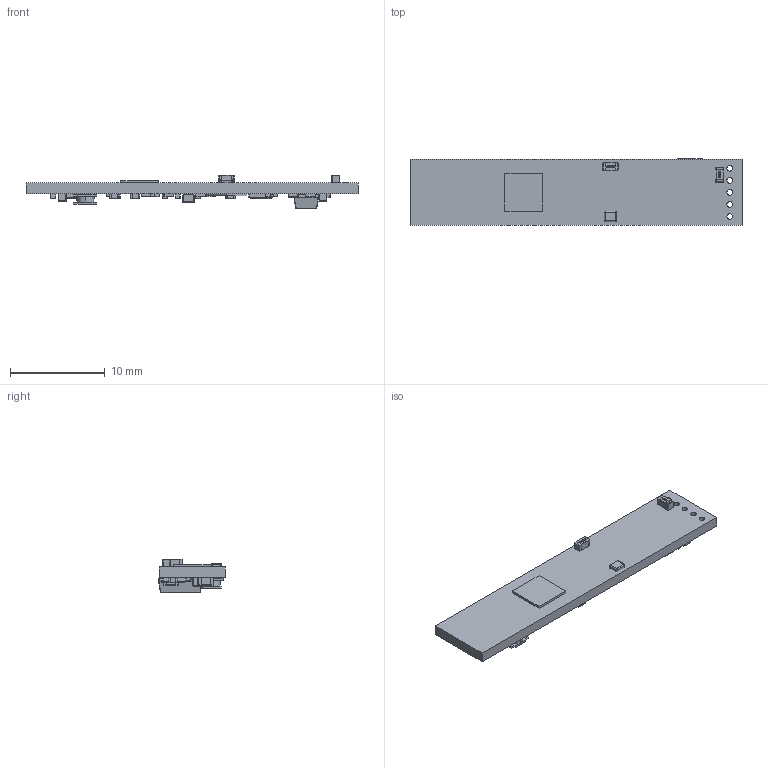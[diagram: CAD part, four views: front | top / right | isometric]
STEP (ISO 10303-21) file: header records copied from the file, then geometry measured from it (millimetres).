
FILE_DESCRIPTION(('Open CASCADE Model'),'2;1');
FILE_NAME('Open CASCADE Shape Model','2022-12-16T11:22:37',('Author'),( 'Open CASCADE'),'Open CASCADE STEP processor 6.8','Open CASCADE 6.8' ,'Unknown');
FILE_SCHEMA(('AUTOMOTIVE_DESIGN { 1 0 10303 214 1 1 1 1 }'));
Length unit declared in the file: millimetre
Products named in the file (71): PCB; Board; Open CASCADE STEP translator 6.8 2.1.1; ANT1; 0603; LOGO?; C2; C_0603; D1; LED_0805; U1; 6401240544; Extruded; C1; C3; C4; C_0402; C5; C6; C7; C8; C9; C10; C11; C12; C13; C14; L1; NR2520; LOGO?0.15; L2; 0805; R1; R0402; R2; R3; R4; R5; R6; R7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
Assembly tree (98 placements, depth 4):
  PCB
    Board
      Open CASCADE STEP translator 6.8 2.1.1
    ANT1
      0603
        LOGO?
        0603
    C2
      C_0603
        LOGO?
        C_0603
    D1
      LED_0805
    U1
      6401240544
        Extruded
    C1
      C_0603
        LOGO?
        C_0603
    C3
      C_0603
        LOGO?
        C_0603
    C4
      C_0402
        LOGO?
        C_0402
    C5
      C_0402
        LOGO?
        C_0402
    C6
      C_0402
        LOGO?
        C_0402
    C7
      C_0402
        LOGO?
        C_0402
    C8
      C_0402
        LOGO?
        C_0402
    C9
      C_0603
        LOGO?
        C_0603
    C10
      C_0402
        LOGO?
        C_0402
    C11
      C_0402
        LOGO?
        C_0402
    C12
      C_0402
        LOGO?
        C_0402
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Bounding box: 35 x 7.05 x 3.53 mm (x, y, z)
Volume: 321.9 mm3; surface area: 953.2 mm2
Topology: 384 solids, 384 shells, 5895 faces, 14220 edges, 9244 vertices
Faces by surface type: plane 3125, bspline 1876, cylinder 750, sphere 120, revolution 12, torus 12
Full cylindrical faces by diameter (mm): 0.6 x5
Entity records: 98367 total; most frequent: CARTESIAN_POINT 42939, ORIENTED_EDGE 9806, DIRECTION 7053, EDGE_CURVE 4903, VERTEX_POINT 3222, LINE 3057, VECTOR 3057, FACE_BOUND 2211
